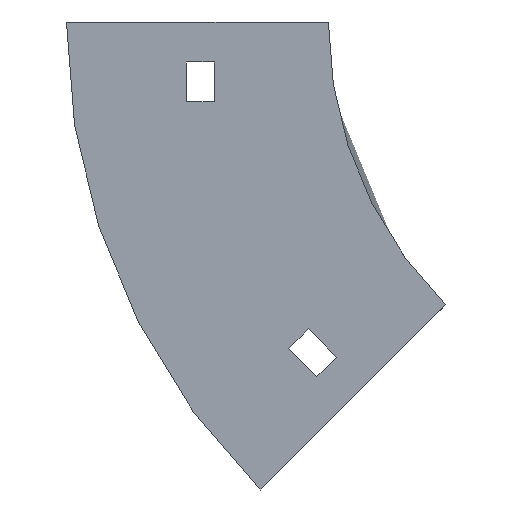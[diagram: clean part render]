
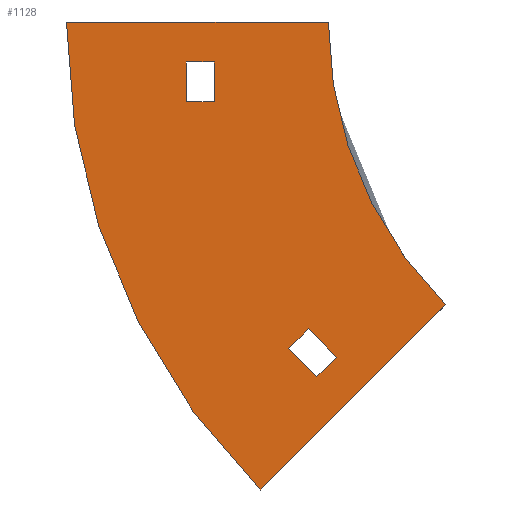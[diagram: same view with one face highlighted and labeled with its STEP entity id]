
A CAD part, left-side view. The second image highlights one B-rep face of the part: STEP entity #1128.
In plain terms, the highlighted planar face has unit normal (-1, 0, 0).
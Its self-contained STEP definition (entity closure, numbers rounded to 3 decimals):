
#1 = LINE ( 'NONE', #615, #446 ) ;
#4 = LINE ( 'NONE', #426, #328 ) ;
#10 = CARTESIAN_POINT ( 'NONE',  ( -252., -29.289, -70.711 ) ) ;
#19 = VERTEX_POINT ( 'NONE', #336 ) ;
#21 = ORIENTED_EDGE ( 'NONE', *, *, #879, .F. ) ;
#35 = EDGE_CURVE ( 'NONE', #19, #245, #4, .T. ) ;
#43 = EDGE_LOOP ( 'NONE', ( #255, #370, #265, #979 ) ) ;
#48 = CARTESIAN_POINT ( 'NONE',  ( -252., 17.026, -117.026 ) ) ;
#88 = AXIS2_PLACEMENT_3D ( 'NONE', #316, #323, #404 ) ;
#97 = CARTESIAN_POINT ( 'NONE',  ( -252., 0., 0. ) ) ;
#122 = ORIENTED_EDGE ( 'NONE', *, *, #425, .F. ) ;
#127 = CARTESIAN_POINT ( 'NONE',  ( -252., 9.955, -81.671 ) ) ;
#146 = CARTESIAN_POINT ( 'NONE',  ( -252., 35.5, -10. ) ) ;
#171 = DIRECTION ( 'NONE',  ( 1., 0., 0. ) ) ;
#179 = CARTESIAN_POINT ( 'NONE',  ( -252., -2.066, -83.792 ) ) ;
#181 = EDGE_CURVE ( 'NONE', #711, #309, #590, .T. ) ;
#193 = VECTOR ( 'NONE', #339, 1000. ) ;
#196 = VECTOR ( 'NONE', #442, 1000. ) ;
#205 = CARTESIAN_POINT ( 'NONE',  ( -252., 35.5, -10. ) ) ;
#216 = AXIS2_PLACEMENT_3D ( 'NONE', #363, #724, #910 ) ;
#227 = PLANE ( 'NONE',  #88 ) ;
#245 = VERTEX_POINT ( 'NONE', #516 ) ;
#246 = EDGE_CURVE ( 'NONE', #1127, #987, #736, .T. ) ;
#255 = ORIENTED_EDGE ( 'NONE', *, *, #324, .T. ) ;
#258 = VECTOR ( 'NONE', #992, 1000. ) ;
#261 = LINE ( 'NONE', #541, #258 ) ;
#265 = ORIENTED_EDGE ( 'NONE', *, *, #755, .T. ) ;
#271 = VECTOR ( 'NONE', #844, 1000. ) ;
#275 = VECTOR ( 'NONE', #535, 1000. ) ;
#286 = CARTESIAN_POINT ( 'NONE',  ( -252., 5.005, -76.721 ) ) ;
#292 = EDGE_LOOP ( 'NONE', ( #122, #725, #526, #634 ) ) ;
#303 = LINE ( 'NONE', #778, #491 ) ;
#309 = VERTEX_POINT ( 'NONE', #205 ) ;
#316 = CARTESIAN_POINT ( 'NONE',  ( -252., -100., 0. ) ) ;
#321 = EDGE_CURVE ( 'NONE', #665, #951, #1017, .T. ) ;
#323 = DIRECTION ( 'NONE',  ( -1., 0., 0. ) ) ;
#324 = EDGE_CURVE ( 'NONE', #309, #19, #338, .T. ) ;
#328 = VECTOR ( 'NONE', #345, 1000. ) ;
#336 = CARTESIAN_POINT ( 'NONE',  ( -252., 28.5, -10. ) ) ;
#338 = LINE ( 'NONE', #417, #985 ) ;
#339 = DIRECTION ( 'NONE',  ( 0., 0., 1. ) ) ;
#345 = DIRECTION ( 'NONE',  ( 0., 0., -1. ) ) ;
#363 = CARTESIAN_POINT ( 'NONE',  ( -252., -100., 0. ) ) ;
#370 = ORIENTED_EDGE ( 'NONE', *, *, #35, .T. ) ;
#393 = VERTEX_POINT ( 'NONE', #551 ) ;
#404 = DIRECTION ( 'NONE',  ( 0., 0., 1. ) ) ;
#417 = CARTESIAN_POINT ( 'NONE',  ( -252., 35.5, -10. ) ) ;
#425 = EDGE_CURVE ( 'NONE', #908, #939, #716, .T. ) ;
#426 = CARTESIAN_POINT ( 'NONE',  ( -252., 28.5, -10. ) ) ;
#432 = LINE ( 'NONE', #179, #275 ) ;
#441 = CARTESIAN_POINT ( 'NONE',  ( -252., 2.884, -88.742 ) ) ;
#442 = DIRECTION ( 'NONE',  ( 0., -0.707, -0.707 ) ) ;
#446 = VECTOR ( 'NONE', #632, 1000. ) ;
#478 = CARTESIAN_POINT ( 'NONE',  ( -252., 65.5, 0. ) ) ;
#491 = VECTOR ( 'NONE', #1024, 1000. ) ;
#516 = CARTESIAN_POINT ( 'NONE',  ( -252., 28.5, -20. ) ) ;
#519 = DIRECTION ( 'NONE',  ( 0., 0., 1. ) ) ;
#526 = ORIENTED_EDGE ( 'NONE', *, *, #246, .F. ) ;
#535 = DIRECTION ( 'NONE',  ( 0., 0.707, 0.707 ) ) ;
#539 = ORIENTED_EDGE ( 'NONE', *, *, #748, .F. ) ;
#541 = CARTESIAN_POINT ( 'NONE',  ( -252., 35.5, -20. ) ) ;
#551 = CARTESIAN_POINT ( 'NONE',  ( -252., -2.066, -83.792 ) ) ;
#557 = CARTESIAN_POINT ( 'NONE',  ( -252., 65.5, 0. ) ) ;
#590 = LINE ( 'NONE', #146, #193 ) ;
#605 = CARTESIAN_POINT ( 'NONE',  ( -252., 35.5, -20. ) ) ;
#612 = CARTESIAN_POINT ( 'NONE',  ( -252., -100., 0. ) ) ;
#615 = CARTESIAN_POINT ( 'NONE',  ( -252., 2.884, -88.742 ) ) ;
#619 = AXIS2_PLACEMENT_3D ( 'NONE', #612, #171, #519 ) ;
#632 = DIRECTION ( 'NONE',  ( 0., -0.707, 0.707 ) ) ;
#634 = ORIENTED_EDGE ( 'NONE', *, *, #1151, .F. ) ;
#665 = VERTEX_POINT ( 'NONE', #286 ) ;
#669 = FACE_OUTER_BOUND ( 'NONE', #292, .T. ) ;
#693 = DIRECTION ( 'NONE',  ( 0., -1., 0. ) ) ;
#703 = CARTESIAN_POINT ( 'NONE',  ( -252., 2.884, -88.742 ) ) ;
#705 = VECTOR ( 'NONE', #758, 1000. ) ;
#711 = VERTEX_POINT ( 'NONE', #605 ) ;
#716 = CIRCLE ( 'NONE', #216, 100. ) ;
#722 = CARTESIAN_POINT ( 'NONE',  ( -252., 9.955, -81.671 ) ) ;
#724 = DIRECTION ( 'NONE',  ( -1., 0., 0. ) ) ;
#725 = ORIENTED_EDGE ( 'NONE', *, *, #995, .F. ) ;
#736 = CIRCLE ( 'NONE', #619, 165.5 ) ;
#748 = EDGE_CURVE ( 'NONE', #951, #935, #789, .T. ) ;
#755 = EDGE_CURVE ( 'NONE', #245, #711, #261, .T. ) ;
#758 = DIRECTION ( 'NONE',  ( 0., -1., 0. ) ) ;
#778 = CARTESIAN_POINT ( 'NONE',  ( -252., -29.289, -70.711 ) ) ;
#789 = LINE ( 'NONE', #703, #196 ) ;
#844 = DIRECTION ( 'NONE',  ( 0., 0.707, -0.707 ) ) ;
#873 = FACE_BOUND ( 'NONE', #43, .T. ) ;
#879 = EDGE_CURVE ( 'NONE', #935, #393, #1, .T. ) ;
#894 = EDGE_CURVE ( 'NONE', #393, #665, #432, .T. ) ;
#908 = VERTEX_POINT ( 'NONE', #97 ) ;
#910 = DIRECTION ( 'NONE',  ( 0., 0., 1. ) ) ;
#935 = VERTEX_POINT ( 'NONE', #441 ) ;
#939 = VERTEX_POINT ( 'NONE', #10 ) ;
#951 = VERTEX_POINT ( 'NONE', #722 ) ;
#979 = ORIENTED_EDGE ( 'NONE', *, *, #181, .T. ) ;
#985 = VECTOR ( 'NONE', #693, 1000. ) ;
#987 = VERTEX_POINT ( 'NONE', #478 ) ;
#992 = DIRECTION ( 'NONE',  ( 0., 1., 0. ) ) ;
#995 = EDGE_CURVE ( 'NONE', #987, #908, #1014, .T. ) ;
#1014 = LINE ( 'NONE', #557, #705 ) ;
#1017 = LINE ( 'NONE', #127, #271 ) ;
#1024 = DIRECTION ( 'NONE',  ( 0., 0.707, -0.707 ) ) ;
#1093 = ORIENTED_EDGE ( 'NONE', *, *, #321, .F. ) ;
#1122 = EDGE_LOOP ( 'NONE', ( #1126, #21, #539, #1093 ) ) ;
#1124 = FACE_BOUND ( 'NONE', #1122, .T. ) ;
#1126 = ORIENTED_EDGE ( 'NONE', *, *, #894, .F. ) ;
#1127 = VERTEX_POINT ( 'NONE', #48 ) ;
#1128 = ADVANCED_FACE ( 'NONE', ( #873, #669, #1124 ), #227, .T. ) ;
#1151 = EDGE_CURVE ( 'NONE', #939, #1127, #303, .T. ) ;
